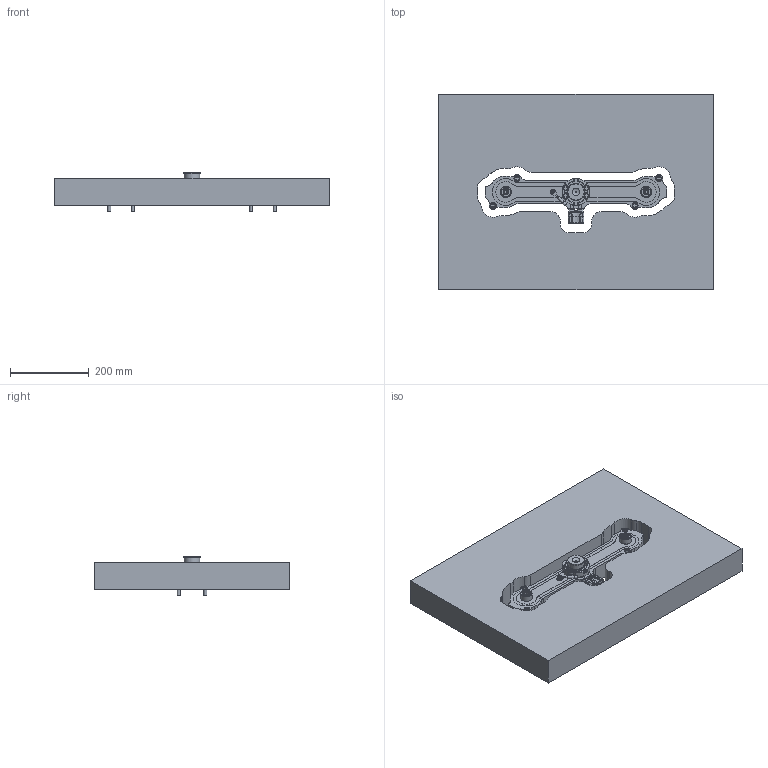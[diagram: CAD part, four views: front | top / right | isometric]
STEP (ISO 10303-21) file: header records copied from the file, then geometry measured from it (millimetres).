
FILE_DESCRIPTION(('STEP AP214'),'1');
FILE_NAME('D:/Trabalho/Standa_library/MF_180X180_BIM18.step','2010-05-19T09:11:20',(' '),(' '),'Spatial InterOp 3D',' ',' ');
FILE_SCHEMA(('automotive_design'));
Length unit declared in the file: millimetre
Products named in the file (33): @28; @32; @34; @36; @38; @40; @42; @44; @46; @48; @50; @52; @54; @56; @58; @60; @62; @64; @66; @68; @70; @72; @74; @76; @78; @80; @82; @84; @86; @88; @90; @92; @94
Bounding box: 696 x 496 x 99 mm (x, y, z)
Volume: 21700400.1 mm3; surface area: 1145805.3 mm2
Topology: 33 solids, 33 shells, 1544 faces, 3783 edges, 2367 vertices
Faces by surface type: plane 628, cylinder 342, cone 254, torus 166, bspline 119, extrusion 25, sphere 8, revolution 2
Full cylindrical faces by diameter (mm): 3.3 x2, 4 x3, 4.2 x1, 4.5 x1, 5 x5, 6 x10, 6.5 x4, 6.7 x10, 6.8 x1, 7 x1, 7.3 x1, 7.5 x1, 8 x17, 9 x4, 9.5 x2, 10 x11, 11 x3, 12 x2, 13 x8, 14 x2, 15 x4, 22.5 x1, 26 x2, 29.2 x3, 40 x1, 41 x1, 42.5 x1, 70 x1
Entity records: 63796 total; most frequent: CARTESIAN_POINT 15909, DIRECTION 7370, ORIENTED_EDGE 7062, EDGE_CURVE 3531, AXIS2_PLACEMENT_3D 2876, VERTEX_POINT 2324, EDGE_LOOP 1867, FACE_OUTER_BOUND 1681
